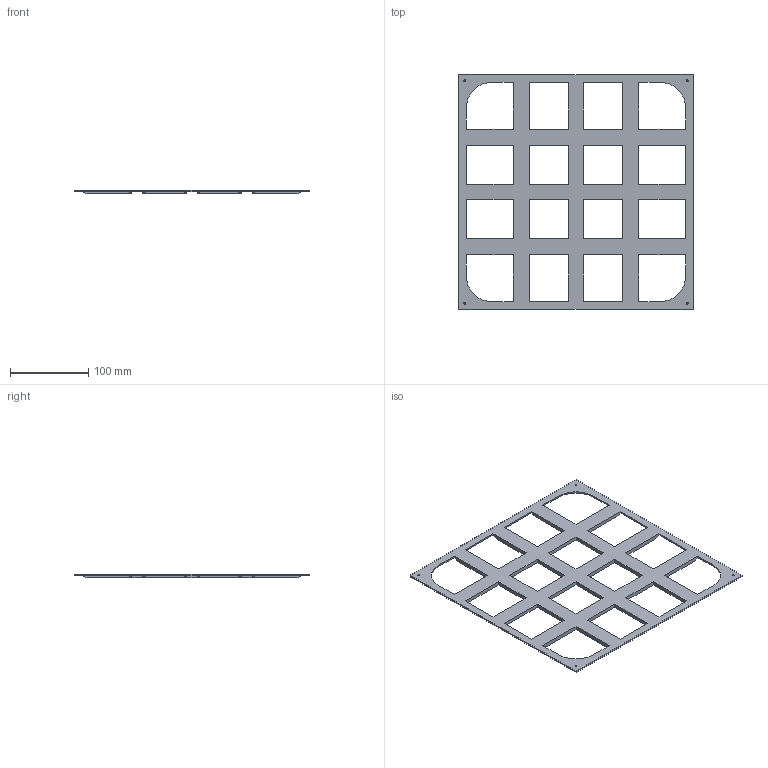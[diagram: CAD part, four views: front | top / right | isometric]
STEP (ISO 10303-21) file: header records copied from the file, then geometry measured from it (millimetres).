
FILE_DESCRIPTION(/* description */ (''),/* implementation_level */ '2;1');
FILE_NAME(/* name */ 'star wars imp light - backplate.step',/* time_stamp */ '2025-11-16T12:04:48+01:00',/* author */ (''),/* organization */ (''),/* preprocessor_version */ 'ST-DEVELOPER v20.1',/* originating_system */ 'Autodesk Translation Framework v14.21.0.0',/* authorisation */ '');
FILE_SCHEMA (('AUTOMOTIVE_DESIGN { 1 0 10303 214 3 1 1 }'));
Length unit declared in the file: millimetre
Products named in the file (1): star wars imp light - backplate
Bounding box: 300 x 300 x 5 mm (x, y, z)
Volume: 111270.7 mm3; surface area: 111606.7 mm2
Topology: 1 solids, 1 shells, 160 faces, 456 edges, 296 vertices
Faces by surface type: plane 152, cylinder 8
Full cylindrical faces by diameter (mm): 2.5 x4
Entity records: 5197 total; most frequent: CARTESIAN_POINT 913, ORIENTED_EDGE 912, DIRECTION 794, EDGE_CURVE 456, LINE 440, VECTOR 440, VERTEX_POINT 296, EDGE_LOOP 198
